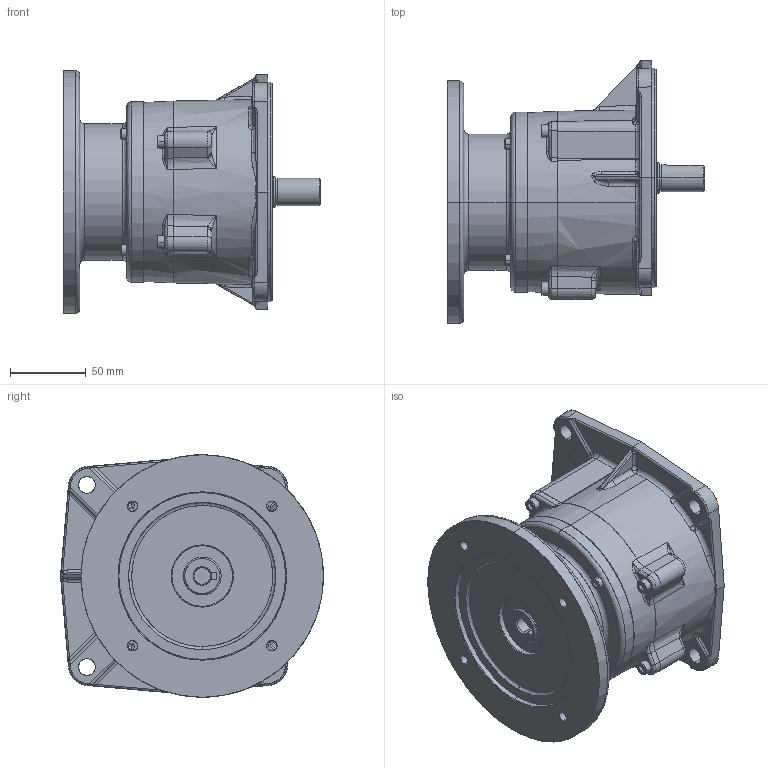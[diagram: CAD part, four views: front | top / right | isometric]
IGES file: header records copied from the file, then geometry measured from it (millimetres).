
Start section: SolidWorks IGES file using analytic representation for surfaces
Bounding box: 170 x 173.5 x 160 mm (x, y, z)
Surface area: 193001.9 mm2 (no closed solid volume)
Topology: 0 solids, 0 shells, 756 faces, 10450 edges, 10409 vertices
Faces by surface type: bspline 447, revolution 309
